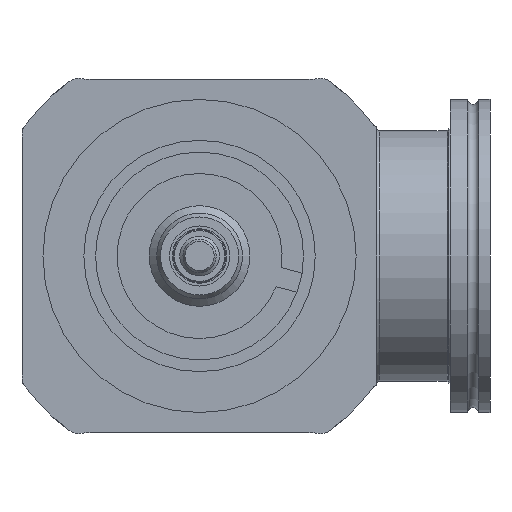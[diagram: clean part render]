
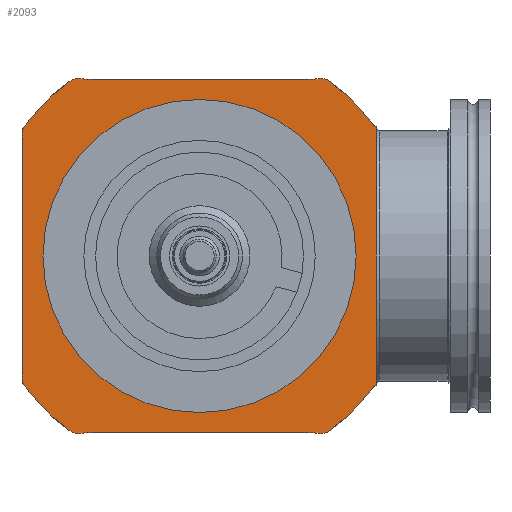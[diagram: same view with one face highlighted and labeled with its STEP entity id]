
A CAD part, left-side view. The second image highlights one B-rep face of the part: STEP entity #2093.
In plain terms, the highlighted planar face has unit normal (-1, 0, 0) as drawn and (0, -1, 0) by its records, which use the part's own axes.
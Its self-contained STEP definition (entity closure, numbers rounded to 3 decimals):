
#1303=LINE('',#7036,#1465);
#1306=LINE('',#7048,#1468);
#1309=LINE('',#7062,#1471);
#1311=LINE('',#7088,#1473);
#1465=VECTOR('',#5831,1.);
#1468=VECTOR('',#5848,1.);
#1471=VECTOR('',#5869,1.);
#1473=VECTOR('',#5903,1.);
#1823=FACE_BOUND('',#2649,.T.);
#1824=FACE_BOUND('',#2650,.T.);
#2093=ADVANCED_FACE('',(#1823,#1824),#2223,.T.);
#2223=PLANE('',#4879);
#2649=EDGE_LOOP('',(#3402));
#2650=EDGE_LOOP('',(#3403,#3404,#3405,#3406,#3407,#3408,#3409,#3410,#3411,
#3412,#3413,#3414,#3415,#3416,#3417,#3418,#3419,#3420,#3421,#3422,#3423,
#3424));
#3402=ORIENTED_EDGE('',*,*,#4222,.T.);
#3403=ORIENTED_EDGE('',*,*,#4223,.F.);
#3404=ORIENTED_EDGE('',*,*,#4179,.T.);
#3405=ORIENTED_EDGE('',*,*,#4209,.T.);
#3406=ORIENTED_EDGE('',*,*,#4211,.T.);
#3407=ORIENTED_EDGE('',*,*,#4176,.T.);
#3408=ORIENTED_EDGE('',*,*,#4212,.T.);
#3409=ORIENTED_EDGE('',*,*,#4173,.T.);
#3410=ORIENTED_EDGE('',*,*,#4213,.T.);
#3411=ORIENTED_EDGE('',*,*,#4215,.T.);
#3412=ORIENTED_EDGE('',*,*,#4197,.T.);
#3413=ORIENTED_EDGE('',*,*,#4194,.T.);
#3414=ORIENTED_EDGE('',*,*,#4199,.T.);
#3415=ORIENTED_EDGE('',*,*,#4191,.T.);
#3416=ORIENTED_EDGE('',*,*,#4200,.T.);
#3417=ORIENTED_EDGE('',*,*,#4202,.T.);
#3418=ORIENTED_EDGE('',*,*,#4204,.T.);
#3419=ORIENTED_EDGE('',*,*,#4188,.T.);
#3420=ORIENTED_EDGE('',*,*,#4205,.T.);
#3421=ORIENTED_EDGE('',*,*,#4185,.T.);
#3422=ORIENTED_EDGE('',*,*,#4206,.T.);
#3423=ORIENTED_EDGE('',*,*,#4208,.T.);
#3424=ORIENTED_EDGE('',*,*,#4183,.T.);
#3796=VERTEX_POINT('',#6985);
#3797=VERTEX_POINT('',#6986);
#3798=VERTEX_POINT('',#6991);
#3799=VERTEX_POINT('',#6992);
#3800=VERTEX_POINT('',#6997);
#3801=VERTEX_POINT('',#6998);
#3802=VERTEX_POINT('',#7003);
#3803=VERTEX_POINT('',#7005);
#3804=VERTEX_POINT('',#7009);
#3805=VERTEX_POINT('',#7010);
#3806=VERTEX_POINT('',#7015);
#3807=VERTEX_POINT('',#7016);
#3808=VERTEX_POINT('',#7021);
#3809=VERTEX_POINT('',#7022);
#3810=VERTEX_POINT('',#7027);
#3811=VERTEX_POINT('',#7028);
#3812=VERTEX_POINT('',#7033);
#3813=VERTEX_POINT('',#7039);
#3814=VERTEX_POINT('',#7043);
#3815=VERTEX_POINT('',#7051);
#3816=VERTEX_POINT('',#7057);
#3817=VERTEX_POINT('',#7065);
#3824=VERTEX_POINT('',#7087);
#4173=EDGE_CURVE('',#3796,#3797,#4434,.T.);
#4176=EDGE_CURVE('',#3798,#3799,#4435,.T.);
#4179=EDGE_CURVE('',#3800,#3801,#4436,.T.);
#4183=EDGE_CURVE('',#3803,#3802,#4437,.T.);
#4185=EDGE_CURVE('',#3804,#3805,#4438,.T.);
#4188=EDGE_CURVE('',#3806,#3807,#4439,.T.);
#4191=EDGE_CURVE('',#3808,#3809,#4440,.T.);
#4194=EDGE_CURVE('',#3810,#3811,#4441,.T.);
#4197=EDGE_CURVE('',#3812,#3810,#4442,.T.);
#4199=EDGE_CURVE('',#3811,#3808,#1303,.T.);
#4200=EDGE_CURVE('',#3809,#3813,#4443,.T.);
#4202=EDGE_CURVE('',#3813,#3814,#4444,.T.);
#4204=EDGE_CURVE('',#3814,#3806,#4445,.T.);
#4205=EDGE_CURVE('',#3807,#3804,#1306,.T.);
#4206=EDGE_CURVE('',#3805,#3815,#4446,.T.);
#4208=EDGE_CURVE('',#3815,#3803,#4447,.T.);
#4209=EDGE_CURVE('',#3801,#3816,#4448,.T.);
#4211=EDGE_CURVE('',#3816,#3798,#4449,.T.);
#4212=EDGE_CURVE('',#3799,#3796,#1309,.T.);
#4213=EDGE_CURVE('',#3797,#3817,#4450,.T.);
#4215=EDGE_CURVE('',#3817,#3812,#4451,.T.);
#4222=EDGE_CURVE('',#3824,#3824,#4458,.T.);
#4223=EDGE_CURVE('',#3800,#3802,#1311,.T.);
#4434=CIRCLE('',#4829,14.);
#4435=CIRCLE('',#4831,14.);
#4436=CIRCLE('',#4833,2.);
#4437=CIRCLE('',#4835,2.);
#4438=CIRCLE('',#4837,14.);
#4439=CIRCLE('',#4839,14.);
#4440=CIRCLE('',#4841,14.);
#4441=CIRCLE('',#4843,14.);
#4442=CIRCLE('',#4845,5.3);
#4443=CIRCLE('',#4848,5.3);
#4444=CIRCLE('',#4850,66.);
#4445=CIRCLE('',#4852,5.3);
#4446=CIRCLE('',#4855,5.3);
#4447=CIRCLE('',#4857,66.);
#4448=CIRCLE('',#4859,66.);
#4449=CIRCLE('',#4861,5.3);
#4450=CIRCLE('',#4864,5.3);
#4451=CIRCLE('',#4866,66.);
#4458=CIRCLE('',#4878,39.);
#4829=AXIS2_PLACEMENT_3D('',#6984,#5778,#5779);
#4831=AXIS2_PLACEMENT_3D('',#6990,#5784,#5785);
#4833=AXIS2_PLACEMENT_3D('',#6996,#5790,#5791);
#4835=AXIS2_PLACEMENT_3D('',#7004,#5797,#5798);
#4837=AXIS2_PLACEMENT_3D('',#7008,#5802,#5803);
#4839=AXIS2_PLACEMENT_3D('',#7014,#5808,#5809);
#4841=AXIS2_PLACEMENT_3D('',#7020,#5814,#5815);
#4843=AXIS2_PLACEMENT_3D('',#7026,#5820,#5821);
#4845=AXIS2_PLACEMENT_3D('',#7032,#5826,#5827);
#4848=AXIS2_PLACEMENT_3D('',#7038,#5834,#5835);
#4850=AXIS2_PLACEMENT_3D('',#7042,#5839,#5840);
#4852=AXIS2_PLACEMENT_3D('',#7046,#5844,#5845);
#4855=AXIS2_PLACEMENT_3D('',#7050,#5851,#5852);
#4857=AXIS2_PLACEMENT_3D('',#7054,#5856,#5857);
#4859=AXIS2_PLACEMENT_3D('',#7056,#5860,#5861);
#4861=AXIS2_PLACEMENT_3D('',#7060,#5865,#5866);
#4864=AXIS2_PLACEMENT_3D('',#7064,#5872,#5873);
#4866=AXIS2_PLACEMENT_3D('',#7068,#5877,#5878);
#4878=AXIS2_PLACEMENT_3D('',#7086,#5901,#5902);
#4879=AXIS2_PLACEMENT_3D('',#7089,#5904,#5905);
#5778=DIRECTION('',(0.,1.,0.));
#5779=DIRECTION('',(0.,0.,-1.));
#5784=DIRECTION('',(0.,1.,0.));
#5785=DIRECTION('',(0.,0.,-1.));
#5790=DIRECTION('',(0.,1.,0.));
#5791=DIRECTION('',(0.,0.,-1.));
#5797=DIRECTION('',(0.,1.,0.));
#5798=DIRECTION('',(0.,0.,-1.));
#5802=DIRECTION('',(0.,1.,0.));
#5803=DIRECTION('',(0.,0.,-1.));
#5808=DIRECTION('',(0.,1.,0.));
#5809=DIRECTION('',(0.,0.,-1.));
#5814=DIRECTION('',(0.,1.,0.));
#5815=DIRECTION('',(0.,0.,-1.));
#5820=DIRECTION('',(0.,1.,0.));
#5821=DIRECTION('',(0.,0.,-1.));
#5826=DIRECTION('',(0.,-1.,0.));
#5827=DIRECTION('',(0.,0.,-1.));
#5831=DIRECTION('',(-1.,0.,0.));
#5834=DIRECTION('',(0.,-1.,0.));
#5835=DIRECTION('',(0.,0.,-1.));
#5839=DIRECTION('',(0.,-1.,0.));
#5840=DIRECTION('',(0.,0.,-1.));
#5844=DIRECTION('',(0.,-1.,0.));
#5845=DIRECTION('',(0.,0.,-1.));
#5848=DIRECTION('',(0.,0.,-1.));
#5851=DIRECTION('',(0.,-1.,0.));
#5852=DIRECTION('',(0.,0.,-1.));
#5856=DIRECTION('',(0.,-1.,0.));
#5857=DIRECTION('',(0.,0.,-1.));
#5860=DIRECTION('',(0.,-1.,0.));
#5861=DIRECTION('',(0.,0.,-1.));
#5865=DIRECTION('',(0.,-1.,0.));
#5866=DIRECTION('',(0.,0.,-1.));
#5869=DIRECTION('',(0.,0.,1.));
#5872=DIRECTION('',(0.,-1.,0.));
#5873=DIRECTION('',(0.,0.,-1.));
#5877=DIRECTION('',(0.,-1.,0.));
#5878=DIRECTION('',(0.,0.,-1.));
#5901=DIRECTION('',(0.,1.,0.));
#5902=DIRECTION('',(0.,0.,-1.));
#5903=DIRECTION('',(-1.,0.,0.));
#5904=DIRECTION('',(0.,-1.,0.));
#5905=DIRECTION('',(0.,0.,-1.));
#6984=CARTESIAN_POINT('',(67.5,40.,33.11));
#6985=CARTESIAN_POINT('',(53.5,40.,33.11));
#6986=CARTESIAN_POINT('',(53.718,40.,35.569));
#6990=CARTESIAN_POINT('',(67.5,40.,-33.11));
#6991=CARTESIAN_POINT('',(53.718,40.,-35.569));
#6992=CARTESIAN_POINT('',(53.5,40.,-33.11));
#6996=CARTESIAN_POINT('',(41.,40.,-54.249));
#6997=CARTESIAN_POINT('',(39.146,40.,-53.5));
#6998=CARTESIAN_POINT('',(39.794,40.,-52.654));
#7003=CARTESIAN_POINT('',(-39.146,40.,-53.5));
#7004=CARTESIAN_POINT('',(-41.,40.,-54.249));
#7005=CARTESIAN_POINT('',(-39.794,40.,-52.654));
#7008=CARTESIAN_POINT('',(-67.5,40.,-33.11));
#7009=CARTESIAN_POINT('',(-53.5,40.,-33.11));
#7010=CARTESIAN_POINT('',(-53.718,40.,-35.569));
#7014=CARTESIAN_POINT('',(-67.5,40.,33.11));
#7015=CARTESIAN_POINT('',(-53.718,40.,35.569));
#7016=CARTESIAN_POINT('',(-53.5,40.,33.11));
#7020=CARTESIAN_POINT('',(-33.11,40.,67.5));
#7021=CARTESIAN_POINT('',(-33.11,40.,53.5));
#7022=CARTESIAN_POINT('',(-35.569,40.,53.718));
#7026=CARTESIAN_POINT('',(33.11,40.,67.5));
#7027=CARTESIAN_POINT('',(35.569,40.,53.718));
#7028=CARTESIAN_POINT('',(33.11,40.,53.5));
#7032=CARTESIAN_POINT('',(36.5,40.,48.5));
#7033=CARTESIAN_POINT('',(39.687,40.,52.735));
#7036=CARTESIAN_POINT('',(0.,40.,53.5));
#7038=CARTESIAN_POINT('',(-36.5,40.,48.5));
#7039=CARTESIAN_POINT('',(-39.687,40.,52.735));
#7042=CARTESIAN_POINT('',(0.,40.,0.));
#7043=CARTESIAN_POINT('',(-52.735,40.,39.687));
#7046=CARTESIAN_POINT('',(-48.5,40.,36.5));
#7048=CARTESIAN_POINT('',(-53.5,40.,-34.742));
#7050=CARTESIAN_POINT('',(-48.5,40.,-36.5));
#7051=CARTESIAN_POINT('',(-52.735,40.,-39.687));
#7054=CARTESIAN_POINT('',(0.,40.,0.));
#7056=CARTESIAN_POINT('',(0.,40.,0.));
#7057=CARTESIAN_POINT('',(52.735,40.,-39.687));
#7060=CARTESIAN_POINT('',(48.5,40.,-36.5));
#7062=CARTESIAN_POINT('',(53.5,40.,34.742));
#7064=CARTESIAN_POINT('',(48.5,40.,36.5));
#7065=CARTESIAN_POINT('',(52.735,40.,39.687));
#7068=CARTESIAN_POINT('',(0.,40.,0.));
#7086=CARTESIAN_POINT('',(0.,40.,0.));
#7087=CARTESIAN_POINT('',(0.,40.,-39.));
#7088=CARTESIAN_POINT('',(0.,40.,-53.5));
#7089=CARTESIAN_POINT('',(0.,40.,120.));
